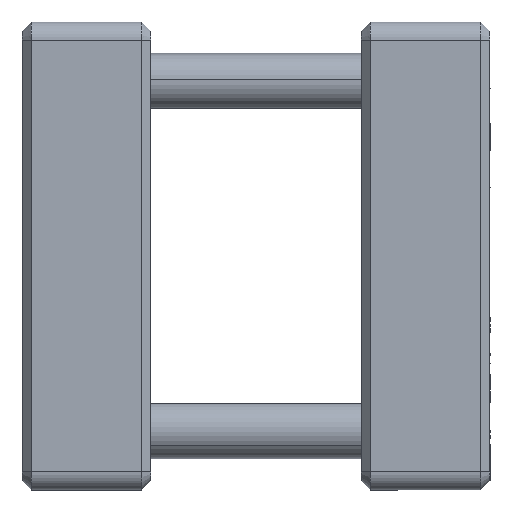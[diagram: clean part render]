
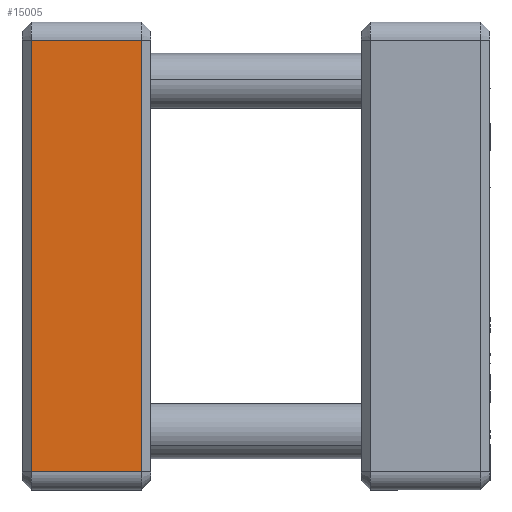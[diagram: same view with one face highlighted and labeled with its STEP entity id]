
A CAD part, left-side view. The second image highlights one B-rep face of the part: STEP entity #15005.
In plain terms, the highlighted planar face has unit normal (-1, 0, 0).
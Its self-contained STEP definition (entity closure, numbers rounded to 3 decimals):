
#143 = VECTOR ( 'NONE', #16514, 1000. ) ;
#1260 = AXIS2_PLACEMENT_3D ( 'NONE', #3596, #16233, #2041 ) ;
#1284 = VERTEX_POINT ( 'NONE', #6084 ) ;
#2041 = DIRECTION ( 'NONE',  ( 0., 0., -1. ) ) ;
#3282 = ORIENTED_EDGE ( 'NONE', *, *, #3619, .T. ) ;
#3596 = CARTESIAN_POINT ( 'NONE',  ( -12.7, 12.7, -12.7 ) ) ;
#3619 = EDGE_CURVE ( 'NONE', #10730, #16235, #3881, .T. ) ;
#3766 = LINE ( 'NONE', #11965, #9962 ) ;
#3881 = LINE ( 'NONE', #10212, #143 ) ;
#4581 = VECTOR ( 'NONE', #19126, 1000. ) ;
#4772 = CARTESIAN_POINT ( 'NONE',  ( -12.7, 12.7, -11.7 ) ) ;
#5058 = LINE ( 'NONE', #8269, #4581 ) ;
#6084 = CARTESIAN_POINT ( 'NONE',  ( -12.7, 12.2, 11.7 ) ) ;
#8269 = CARTESIAN_POINT ( 'NONE',  ( -12.7, 12.2, -12.7 ) ) ;
#8650 = EDGE_LOOP ( 'NONE', ( #14575, #15239, #9726, #3282 ) ) ;
#9726 = ORIENTED_EDGE ( 'NONE', *, *, #19307, .T. ) ;
#9962 = VECTOR ( 'NONE', #10406, 1000. ) ;
#10212 = CARTESIAN_POINT ( 'NONE',  ( -12.7, 6.2, -12.7 ) ) ;
#10406 = DIRECTION ( 'NONE',  ( 0., 1., 0. ) ) ;
#10730 = VERTEX_POINT ( 'NONE', #16191 ) ;
#11307 = VECTOR ( 'NONE', #18832, 1000. ) ;
#11492 = FACE_OUTER_BOUND ( 'NONE', #8650, .T. ) ;
#11965 = CARTESIAN_POINT ( 'NONE',  ( -12.7, 12.7, 11.7 ) ) ;
#14513 = VERTEX_POINT ( 'NONE', #18735 ) ;
#14575 = ORIENTED_EDGE ( 'NONE', *, *, #18885, .T. ) ;
#14952 = EDGE_CURVE ( 'NONE', #1284, #14513, #5058, .T. ) ;
#15005 = ADVANCED_FACE ( 'NONE', ( #11492 ), #17782, .T. ) ;
#15239 = ORIENTED_EDGE ( 'NONE', *, *, #14952, .T. ) ;
#15960 = LINE ( 'NONE', #4772, #11307 ) ;
#16191 = CARTESIAN_POINT ( 'NONE',  ( -12.7, 6.2, -11.7 ) ) ;
#16233 = DIRECTION ( 'NONE',  ( -1., 0., 0. ) ) ;
#16235 = VERTEX_POINT ( 'NONE', #18547 ) ;
#16514 = DIRECTION ( 'NONE',  ( 0., 0., 1. ) ) ;
#17782 = PLANE ( 'NONE',  #1260 ) ;
#18547 = CARTESIAN_POINT ( 'NONE',  ( -12.7, 6.2, 11.7 ) ) ;
#18735 = CARTESIAN_POINT ( 'NONE',  ( -12.7, 12.2, -11.7 ) ) ;
#18832 = DIRECTION ( 'NONE',  ( 0., -1., 0. ) ) ;
#18885 = EDGE_CURVE ( 'NONE', #16235, #1284, #3766, .T. ) ;
#19126 = DIRECTION ( 'NONE',  ( 0., 0., -1. ) ) ;
#19307 = EDGE_CURVE ( 'NONE', #14513, #10730, #15960, .T. ) ;
